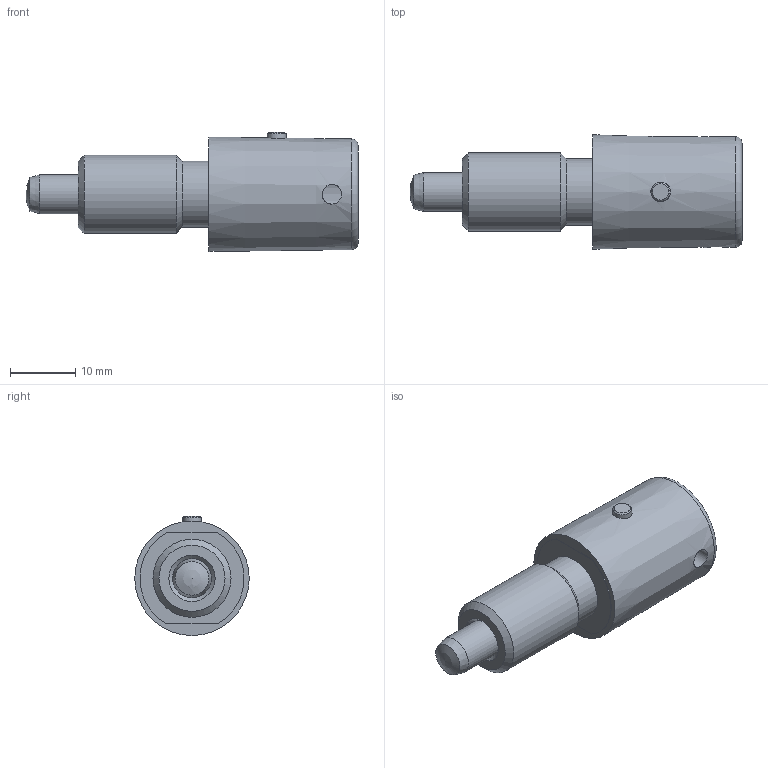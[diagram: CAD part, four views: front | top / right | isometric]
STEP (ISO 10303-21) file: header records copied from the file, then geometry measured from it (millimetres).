
FILE_DESCRIPTION( ( 'STEP AP203' ), '1' );
FILE_NAME( 'C:/Temp/Ganter_Step_05_03_2020/data/3_1/gn816_1/gn_816_1_b/Locking plunger GN 816.1-6-M12x1,5-B (activated).stp', '2020-03-12T08:56:18', ( 'License CC BY-ND 4.0' ), ( 'CADENAS' ), ' ', 'PARTsolutions', ' ' );
FILE_SCHEMA( ( 'CONFIG_CONTROL_DESIGN' ) );
Length unit declared in the file: millimetre
Products named in the file (3): Locking plunger GN 816.1-6-M12x1,5-B (activated); _GN 816.1-6-M12x1,5-B(1)-b2; _GN 816.1-6-M12x1,5-Bb1
Assembly tree (2 placements, depth 2):
  Locking plunger GN 816.1-6-M12x1,5-B (activated)
    _GN 816.1-6-M12x1,5-B(1)-b2
    _GN 816.1-6-M12x1,5-Bb1
Bounding box: 51 x 17.59 x 18.3 mm (x, y, z)
Volume: 6099.3 mm3; surface area: 4630.7 mm2
Topology: 2 solids, 2 shells, 41 faces, 79 edges, 49 vertices
Faces by surface type: cylinder 14, plane 13, cone 11, torus 2, sphere 1
Full cylindrical faces by diameter (mm): 2.9 x2, 3 x2, 6 x2, 7 x1, 8 x1, 8.1 x1, 10.2 x1, 11.1 x1, 12 x1
Entity records: 1290 total; most frequent: CARTESIAN_POINT 443, DIRECTION 166, ORIENTED_EDGE 98, EDGE_LOOP 80, AXIS2_PLACEMENT_3D 79, FACE_OUTER_BOUND 55, EDGE_CURVE 49, VERTEX_POINT 46
